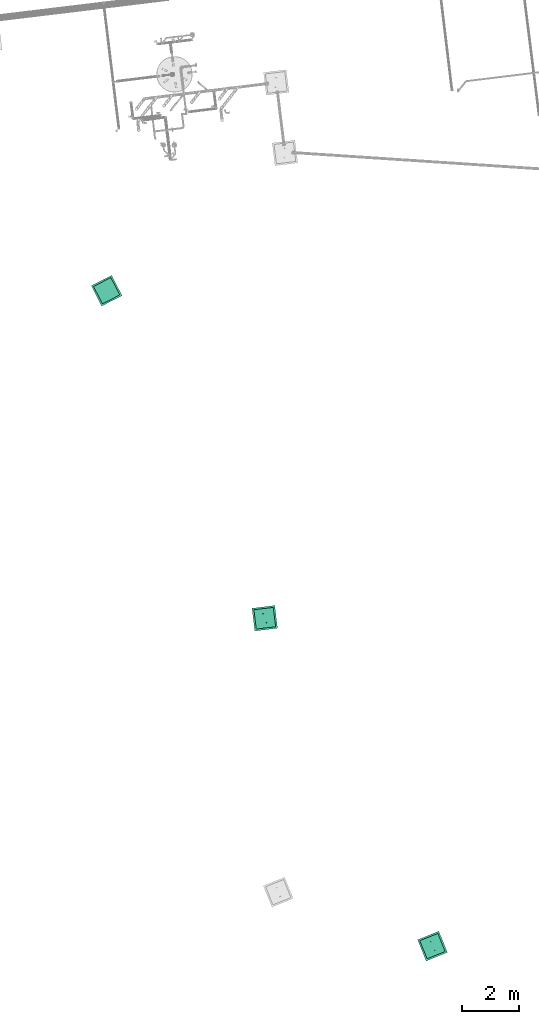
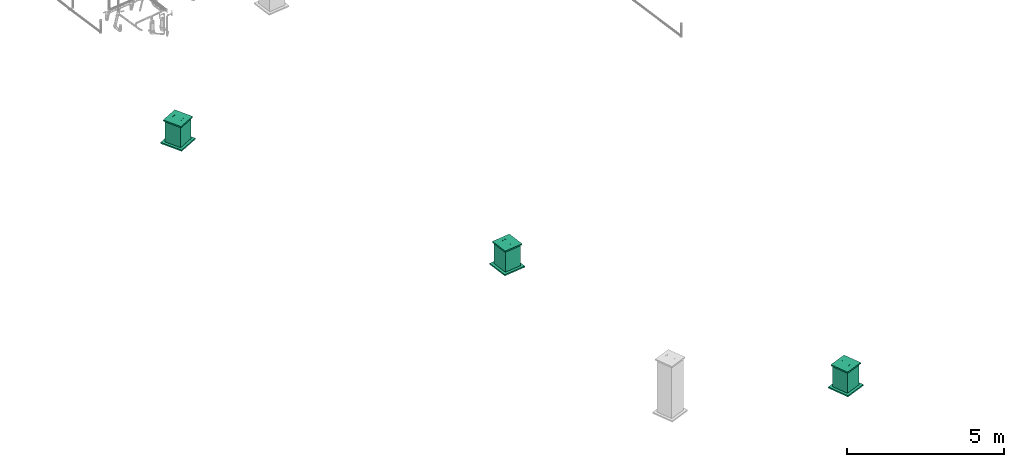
# One storey, part 2 of 97: 3 flow terminals.
"""IFC2X3 building model written with IfcOpenShell, lengths in centimetres."""

from ifc_helpers import new_model, entity, si_unit, converted_unit, derived_unit, direction, frame, origin, place, context, subcontext, project, spatial, faceted_brep, source, transform, mapped, material, material_list, type_object, type_shapes, element, save


model = new_model("IFC2X3")

# Units and contexts
model_context = context("Model", 3, precision=0.001, world=origin(), true_north=direction((6.12303176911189e-17, 1.0)))
body_context = subcontext(model_context, "Body", "Model", "MODEL_VIEW")
ifc_project = project(units=[si_unit("LENGTHUNIT", "METRE", prefix="CENTI"), si_unit("AREAUNIT", "SQUARE_METRE"), si_unit("VOLUMEUNIT", "CUBIC_METRE"), converted_unit("PLANEANGLEUNIT", "DEGREE", entity("IfcRatioMeasure", 0.0174532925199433), si_unit("PLANEANGLEUNIT", "RADIAN"), dimensions=[0, 0, 0, 0, 0, 0, 0]), si_unit("MASSUNIT", "GRAM", prefix="KILO"), derived_unit("MASSDENSITYUNIT", [(si_unit("MASSUNIT", "GRAM", prefix="KILO"), 1), (si_unit("LENGTHUNIT", "METRE"), -3)]), derived_unit("MOMENTOFINERTIAUNIT", [(si_unit("LENGTHUNIT", "METRE"), 4)]), si_unit("TIMEUNIT", "SECOND"), si_unit("FREQUENCYUNIT", "HERTZ"), si_unit("THERMODYNAMICTEMPERATUREUNIT", "DEGREE_CELSIUS"), derived_unit("THERMALTRANSMITTANCEUNIT", [(si_unit("MASSUNIT", "GRAM", prefix="KILO"), 1), (si_unit("THERMODYNAMICTEMPERATUREUNIT", "KELVIN"), -1), (si_unit("TIMEUNIT", "SECOND"), -3)]), derived_unit("VOLUMETRICFLOWRATEUNIT", [(si_unit("LENGTHUNIT", "METRE"), 3), (si_unit("TIMEUNIT", "SECOND"), -1)]), si_unit("ELECTRICCURRENTUNIT", "AMPERE"), si_unit("ELECTRICVOLTAGEUNIT", "VOLT"), si_unit("POWERUNIT", "WATT"), si_unit("FORCEUNIT", "NEWTON", prefix="KILO"), si_unit("ILLUMINANCEUNIT", "LUX"), si_unit("LUMINOUSFLUXUNIT", "LUMEN"), si_unit("LUMINOUSINTENSITYUNIT", "CANDELA"), derived_unit("USERDEFINED", [(si_unit("MASSUNIT", "GRAM", prefix="KILO"), -1), (si_unit("LENGTHUNIT", "METRE"), -2), (si_unit("TIMEUNIT", "SECOND"), 3), (si_unit("LUMINOUSFLUXUNIT", "LUMEN"), 1)]), derived_unit("LINEARVELOCITYUNIT", [(si_unit("LENGTHUNIT", "METRE"), 1), (si_unit("TIMEUNIT", "SECOND"), -1)]), si_unit("PRESSUREUNIT", "PASCAL"), derived_unit("USERDEFINED", [(si_unit("LENGTHUNIT", "METRE"), -2), (si_unit("MASSUNIT", "GRAM", prefix="KILO"), 1), (si_unit("TIMEUNIT", "SECOND"), -2)]), derived_unit("LINEARFORCEUNIT", [(si_unit("MASSUNIT", "GRAM", prefix="KILO"), 1), (si_unit("LENGTHUNIT", "METRE"), 1), (si_unit("TIMEUNIT", "SECOND"), -2), (si_unit("LENGTHUNIT", "METRE"), -1)]), derived_unit("PLANARFORCEUNIT", [(si_unit("MASSUNIT", "GRAM", prefix="KILO"), 1), (si_unit("LENGTHUNIT", "METRE"), 1), (si_unit("TIMEUNIT", "SECOND"), -2), (si_unit("LENGTHUNIT", "METRE"), -2)])], contexts=[model_context])

# Site, building, storey
site_placement = place(None, origin())
site = spatial("IfcSite", under=ifc_project, at=site_placement, Name="Default", CompositionType="ELEMENT")
building_placement = place(site_placement, origin())
building = spatial("IfcBuilding", under=site, at=building_placement, Name="HIDROSSANITÁRIO", CompositionType="ELEMENT")
storey_placement = place(building_placement, frame((0.0, 0.0, -260.0)))
storey = spatial("IfcBuildingStorey", under=building, at=storey_placement, Name="TÉRREO-HID", CompositionType="ELEMENT", Elevation=-260.0)

# Flow terminals
ifc_material_1 = material(Name="<Unnamed>")
ifc_material_2 = material(Name="Concrete, Sand/Cement Screed")
ifc_material_3 = material(Name="Brick, Common, Grey")
ifc_material_list_1 = material_list([ifc_material_1, ifc_material_2, ifc_material_3])
ifc_material_list_2 = material_list([ifc_material_1, ifc_material_2, ifc_material_3])
distribution_element_type = type_object("IfcDistributionElementType", Name="Caixa de Inspeção/Gordura:Alvenaria", material=ifc_material_list_2)
shared_shape = source(origin(), body_context, "Body", "Brep", [
    faceted_brep([(-5.60146522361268, 16.5924553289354, 3.71042168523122), (-5.40613785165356, 16.3971279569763, 3.71042168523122), (-5.60146522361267, 16.2018005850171, 3.71042168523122), (-5.79679259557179, 16.3971279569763, 3.71042168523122), (6.39853477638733, 16.2018005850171, 3.71042168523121), (6.20320740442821, 16.3971279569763, 3.71042168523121), (6.39853477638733, 16.5924553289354, 3.71042168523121), (6.59386214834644, 16.3971279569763, 3.71042168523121), (-5.40613785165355, 16.3971279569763, 5.27042602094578), (-5.57070403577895, 16.2042380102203, 5.71042174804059), (-5.79679259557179, 16.3971279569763, 5.27042593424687), (-5.40613785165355, 16.3971279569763, 7.71042168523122), (-5.60146522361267, 16.2018005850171, 7.71042168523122), (-5.40613785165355, 16.3971279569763, 6.1504173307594), (-5.79679259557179, 16.3971279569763, 7.71042168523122), (-5.60146522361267, 16.5924553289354, 7.71042168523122), (-5.63222641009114, 16.5900179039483, 5.71042169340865), (-5.68947233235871, 16.5044482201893, 7.71042168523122), (-5.25102598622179, 16.2195619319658, 8.35998244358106), (-5.37993713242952, 16.2298951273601, 8.48889359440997), (-4.60146522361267, 16.3971279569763, 8.90574905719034), (-4.60146522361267, 16.2018005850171, 8.71042168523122), (-5.17045469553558, 16.3971279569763, 8.27941115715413), (-4.60146522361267, 16.3971279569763, 8.5150943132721), (-5.44668931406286, 16.3971279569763, 8.55564577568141), (-5.36898819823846, 16.5727768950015, 8.47794465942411), (-5.21737432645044, 16.5627205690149, 8.36172681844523), (-4.60146522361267, 16.5924553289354, 8.71042168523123), (0.518543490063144, 16.3971279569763, 8.90574905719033), (1.73854147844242, 16.2018005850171, 8.71042168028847), (2.95853913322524, 16.3971279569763, 8.90574905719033), (-0.76461087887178, 16.2018577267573, 8.71514602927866), (-2.16146960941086, 16.3971279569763, 8.5150943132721), (0.278526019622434, 16.3971279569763, 8.5150943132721), (0.398534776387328, 16.3971279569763, 8.5150943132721), (-2.16146958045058, 16.3971279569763, 8.90574905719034), (5.39853477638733, 16.2018005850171, 8.71042168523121), (5.39853477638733, 16.3971279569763, 8.90574905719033), (2.95853916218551, 16.3971279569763, 8.5150943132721), (5.39853477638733, 16.3971279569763, 8.51509431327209), (0.398534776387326, 16.3971279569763, 8.90574905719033), (1.56168082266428, 16.5923981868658, 8.70569732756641), (-0.941471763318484, 16.5924553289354, 8.71042168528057), (5.39853477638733, 16.5924553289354, 8.71042168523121), (5.39853477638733, 16.5044482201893, 8.79842879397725), (6.04809553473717, 16.2195619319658, 8.35998244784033), (6.17700668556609, 16.2298951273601, 8.48889359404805), (6.59386214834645, 16.3971279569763, 7.71042168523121), (6.39853477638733, 16.2018005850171, 7.71042168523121), (5.96752424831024, 16.3971279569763, 8.27941115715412), (6.20320740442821, 16.3971279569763, 7.71042168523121), (6.24375886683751, 16.3971279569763, 8.5556457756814), (6.16605775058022, 16.5727768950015, 8.477944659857), (6.04983990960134, 16.5627205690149, 8.32633078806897), (6.39853477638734, 16.5924553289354, 7.71042168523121), (6.20320740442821, 16.3971279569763, 6.15041734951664), (6.36777358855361, 16.2042380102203, 5.71042162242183), (6.59386214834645, 16.3971279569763, 6.15041743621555), (6.20320740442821, 16.3971279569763, 5.27042603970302), (6.4292959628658, 16.5900179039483, 5.71042167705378)], [[[0, 1, 2, 3]], [[4, 5, 6, 7]], [[8, 9, 2]], [[2, 10, 3]], [[10, 2, 9]], [[11, 12, 9]], [[8, 2, 1]], [[9, 8, 13, 11]], [[9, 12, 14]], [[14, 10, 9]], [[13, 15, 11]], [[0, 10, 16]], [[14, 16, 10]], [[10, 0, 3]], [[16, 13, 8, 1]], [[13, 16, 15]], [[1, 0, 16]], [[16, 14, 17, 15]], [[12, 18, 19]], [[20, 19, 21]], [[14, 12, 19]], [[11, 22, 18]], [[23, 21, 18]], [[14, 19, 24]], [[24, 19, 20]], [[23, 18, 22]], [[19, 18, 21]], [[11, 18, 12]], [[17, 14, 24]], [[25, 26, 15]], [[25, 15, 17]], [[11, 15, 26]], [[25, 27, 26]], [[20, 25, 24]], [[20, 27, 25]], [[26, 22, 11]], [[22, 26, 23]], [[17, 24, 25]], [[23, 26, 27]], [[28, 29, 30]], [[31, 32, 33, 34]], [[35, 20, 21]], [[36, 37, 30]], [[29, 28, 31]], [[38, 39, 36]], [[21, 23, 32]], [[34, 29, 31]], [[32, 31, 21]], [[30, 29, 36]], [[34, 38, 29]], [[36, 29, 38]], [[31, 28, 40, 35]], [[31, 35, 21]], [[40, 41, 42]], [[43, 39, 38]], [[27, 42, 33, 32, 23]], [[27, 20, 35, 40, 42]], [[30, 37, 44, 43]], [[38, 41, 43]], [[30, 43, 41]], [[42, 41, 33]], [[41, 40, 28, 30]], [[41, 38, 34, 33]], [[36, 45, 46]], [[47, 46, 48]], [[37, 36, 46]], [[39, 49, 45]], [[50, 48, 45]], [[37, 46, 51]], [[51, 46, 47]], [[50, 45, 49]], [[46, 45, 48]], [[39, 45, 36]], [[44, 37, 51]], [[52, 53, 43]], [[52, 43, 44]], [[39, 43, 53]], [[52, 54, 53]], [[47, 52, 51]], [[47, 54, 52]], [[53, 49, 39]], [[49, 53, 50]], [[44, 51, 52]], [[50, 53, 54]], [[55, 56, 48]], [[48, 57, 47]], [[57, 48, 56]], [[5, 4, 56]], [[55, 48, 50]], [[56, 55, 58, 5]], [[56, 4, 7]], [[7, 57, 56]], [[58, 6, 5]], [[54, 57, 59]], [[7, 59, 57]], [[57, 54, 47]], [[59, 58, 55, 50]], [[58, 59, 6]], [[50, 54, 59]], [[7, 6, 59]]]),
    faceted_brep([(-5.60146522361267, -16.5924553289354, 3.71042168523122), (-5.79679259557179, -16.3971279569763, 3.71042168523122), (-5.60146522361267, -16.2018005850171, 3.71042168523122), (-5.40613785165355, -16.3971279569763, 3.71042168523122), (6.39853477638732, -16.2018005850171, 3.71042168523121), (6.59386214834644, -16.3971279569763, 3.71042168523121), (6.39853477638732, -16.5924553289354, 3.71042168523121), (6.20320740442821, -16.3971279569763, 3.71042168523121), (-5.79679259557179, -16.3971279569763, 6.15041737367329), (-5.60146522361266, -16.5924553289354, 7.71042168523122), (-5.68947233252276, -16.5044482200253, 7.71042168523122), (-5.79679259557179, -16.3971279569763, 7.71042168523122), (-5.40613785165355, -16.3971279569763, 5.27042602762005), (-5.5707040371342, -16.5900179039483, 5.71042169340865), (-5.40613785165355, -16.3971279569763, 7.71042168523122), (-5.79679259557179, -16.3971279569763, 5.27042602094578), (-5.51345811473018, -16.5044482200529, 7.71042168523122), (-5.63222641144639, -16.2042380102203, 5.71042174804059), (-5.60146522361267, -16.2018005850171, 7.71042168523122), (-5.37028554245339, -16.5521831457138, 8.52319636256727), (-5.44668931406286, -16.3971279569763, 8.55564577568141), (-5.17045469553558, -16.3971279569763, 8.27941115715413), (-4.60146522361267, -16.3971279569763, 8.5150943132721), (-4.60146522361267, -16.5044482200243, 8.62241457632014), (-4.60146522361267, -16.5924553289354, 8.71042168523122), (-4.60146522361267, -16.5044482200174, 8.79842879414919), (-5.27261908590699, -16.5857215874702, 8.3815755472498), (-4.60146522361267, -16.3971279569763, 8.90574905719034), (-5.23720687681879, -16.2298951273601, 8.34616333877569), (-4.60146522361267, -16.2018005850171, 8.71042168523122), (-5.36611802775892, -16.2195619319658, 8.4750744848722), (0.398534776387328, -16.3971279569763, 8.5150943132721), (1.56168082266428, -16.5923981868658, 8.71514604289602), (-0.941471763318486, -16.5924553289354, 8.71042168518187), (2.95853912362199, -16.3971279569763, 8.90574905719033), (5.39853477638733, -16.5924553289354, 8.71042168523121), (5.39853477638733, -16.5044482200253, 8.7984287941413), (5.39853477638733, -16.3971279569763, 8.90574905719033), (0.278526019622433, -16.3971279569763, 8.90574905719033), (-2.16146957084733, -16.3971279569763, 8.90574905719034), (-2.16146960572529, -16.3971279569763, 8.5150943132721), (2.95853915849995, -16.3971279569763, 8.51509431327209), (5.39853477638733, -16.3971279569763, 8.51509431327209), (5.39853477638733, -16.5044482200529, 8.62241457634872), (0.518543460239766, -16.3971279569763, 8.5150943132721), (0.398534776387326, -16.3971279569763, 8.90574905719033), (1.73854147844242, -16.2018005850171, 8.71042169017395), (-0.76461087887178, -16.2018577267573, 8.70569734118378), (5.39853477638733, -16.2018005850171, 8.71042168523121), (6.21130945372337, -16.5521831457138, 8.47924200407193), (6.24375886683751, -16.3971279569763, 8.5556457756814), (5.96752424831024, -16.3971279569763, 8.27941115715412), (6.20320740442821, -16.3971279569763, 7.71042168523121), (6.31052766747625, -16.5044482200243, 7.71042168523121), (6.39853477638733, -16.5924553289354, 7.71042168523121), (6.4865418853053, -16.5044482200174, 7.71042168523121), (6.06968863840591, -16.5857215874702, 8.38157554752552), (6.59386214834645, -16.3971279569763, 7.71042168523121), (6.03427642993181, -16.2298951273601, 8.34616333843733), (6.39853477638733, -16.2018005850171, 7.71042168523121), (6.16318757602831, -16.2195619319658, 8.47507448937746), (6.59386214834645, -16.3971279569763, 5.27042599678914), (6.20320740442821, -16.3971279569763, 6.15041726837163), (6.36777358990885, -16.5900179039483, 5.71042167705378), (6.59386214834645, -16.3971279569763, 6.15041734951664), (6.42929596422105, -16.2042380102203, 5.71042162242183)], [[[0, 1, 2, 3]], [[4, 5, 6, 7]], [[8, 9, 10, 11]], [[0, 12, 13]], [[14, 13, 12]], [[12, 0, 3]], [[13, 8, 15, 1]], [[8, 13, 9]], [[1, 0, 13]], [[13, 14, 16, 9]], [[15, 17, 2]], [[2, 12, 3]], [[12, 2, 17]], [[11, 18, 17]], [[15, 2, 1]], [[17, 15, 8, 11]], [[17, 18, 14]], [[14, 12, 17]], [[19, 10, 9]], [[10, 19, 20]], [[21, 22, 23]], [[24, 25, 19]], [[24, 26, 23]], [[24, 19, 26]], [[16, 26, 9]], [[20, 25, 27]], [[20, 11, 10]], [[23, 26, 21]], [[19, 25, 20]], [[14, 21, 16]], [[26, 19, 9]], [[26, 16, 21]], [[22, 28, 29]], [[18, 30, 28]], [[14, 28, 21]], [[14, 18, 28]], [[11, 20, 30]], [[27, 30, 20]], [[27, 29, 30]], [[11, 30, 18]], [[21, 28, 22]], [[28, 30, 29]], [[31, 32, 33]], [[34, 35, 36, 37]], [[24, 33, 38, 39, 27, 25]], [[40, 31, 33, 24, 23, 22]], [[41, 42, 43, 35]], [[34, 32, 35]], [[41, 35, 32]], [[33, 32, 38]], [[32, 31, 44, 41]], [[32, 34, 45, 38]], [[44, 46, 41]], [[47, 39, 38, 45]], [[40, 22, 29]], [[48, 42, 41]], [[46, 44, 47]], [[34, 37, 48]], [[29, 27, 39]], [[45, 46, 47]], [[39, 47, 29]], [[41, 46, 48]], [[45, 34, 46]], [[48, 46, 34]], [[47, 44, 31, 40]], [[47, 40, 29]], [[49, 36, 35]], [[36, 49, 50]], [[51, 52, 53]], [[54, 55, 49]], [[54, 56, 53]], [[54, 49, 56]], [[43, 56, 35]], [[50, 55, 57]], [[50, 37, 36]], [[53, 56, 51]], [[49, 55, 50]], [[42, 51, 43]], [[56, 49, 35]], [[56, 43, 51]], [[52, 58, 59]], [[48, 60, 58]], [[42, 58, 51]], [[42, 48, 58]], [[37, 50, 60]], [[57, 60, 50]], [[57, 59, 60]], [[37, 60, 48]], [[51, 58, 52]], [[58, 60, 59]], [[61, 6, 5]], [[54, 62, 63]], [[7, 63, 62]], [[62, 54, 53, 52]], [[63, 61, 64, 57]], [[61, 63, 6]], [[63, 57, 55, 54]], [[7, 6, 63]], [[64, 65, 59]], [[59, 62, 52]], [[62, 59, 65]], [[5, 4, 65]], [[64, 59, 57]], [[65, 64, 61, 5]], [[65, 4, 7]], [[7, 62, 65]]]),
    faceted_brep([(34.0, 34.0, 6.0), (-34.0, 34.0, 6.0), (-34.0, -34.0, 6.0), (34.0, -34.0, 6.0), (34.0, 34.0, 1.0), (34.0, -34.0, 1.0), (-34.0, -34.0, 1.0), (-34.0, 34.0, 1.0)], [[[0, 1, 2, 3]], [[4, 5, 6, 7]], [[1, 0, 4, 7]], [[2, 1, 7, 6]], [[3, 2, 6, 5]], [[0, 3, 5, 4]]]),
    faceted_brep([(40.0, 40.0, -80.0), (-40.0, 40.0, -80.0), (-40.0, -40.0, -80.0), (40.0, -40.0, -80.0), (40.0, 40.0, -85.0), (40.0, -40.0, -85.0), (-40.0, -40.0, -85.0), (-40.0, 40.0, -85.0)], [[[0, 1, 2, 3]], [[4, 5, 6, 7]], [[1, 0, 4, 7]], [[2, 1, 7, 6]], [[3, 2, 6, 5]], [[0, 3, 5, 4]]]),
    faceted_brep([(25.0, 25.0, 1.0), (25.0, -25.0, 1.0), (-25.0, -25.0, 1.0), (-25.0, 25.0, 1.0), (30.0, 30.0, 1.0), (-30.0, 30.0, 1.0), (-30.0, -30.0, 1.0), (30.0, -30.0, 1.0), (25.0, 25.0, -80.0), (-25.0, 25.0, -80.0), (-25.0, -25.0, -80.0), (25.0, -25.0, -80.0), (30.0, 30.0, -80.0), (30.0, -30.0, -80.0), (-30.0, -30.0, -80.0), (-30.0, 30.0, -80.0)], [[[0, 1, 2, 3], [4, 5, 6, 7]], [[8, 9, 10, 11], [12, 13, 14, 15]], [[1, 0, 8, 11]], [[2, 1, 11, 10]], [[3, 2, 10, 9]], [[0, 3, 9, 8]], [[5, 4, 12, 15]], [[6, 5, 15, 14]], [[7, 6, 14, 13]], [[4, 7, 13, 12]]], outer=[[False, True], [False, True], [True], [True], [True], [True], [True], [True], [True], [True]]),
])
type_shapes(distribution_element_type, [shared_shape])
flow_terminal_1_placement = place(storey_placement, frame((-754.685774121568, -4.45854200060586, 34.0), z_axis=(0.0, 0.0, 1.0), x_axis=(0.927348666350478, 0.374198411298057, 0.0)))
element("IfcFlowTerminal", 1, at=flow_terminal_1_placement, inside=storey, type_object=distribution_element_type, material=ifc_material_list_1, Name="Caixa de Inspeção/Gordura:Alvenaria", ObjectType="Caixa de Inspeção/Gordura:Alvenaria", context=body_context, shape_type="MappedRepresentation", body=[
    mapped(shared_shape, transform((0.0, 0.0, 0.0), scale=1.0)),
])
ifc_material_list_3 = material_list([ifc_material_1, ifc_material_2, ifc_material_3])
flow_terminal_2_placement = place(storey_placement, frame((-1340.25513274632, 1140.31847695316, 16.0), z_axis=(0.0, 0.0, 1.0), x_axis=(0.992511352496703, 0.122152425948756, 0.0)))
element("IfcFlowTerminal", 2, at=flow_terminal_2_placement, inside=storey, type_object=distribution_element_type, material=ifc_material_list_3, Name="Caixa de Inspeção/Gordura:Alvenaria", ObjectType="Caixa de Inspeção/Gordura:Alvenaria", context=body_context, shape_type="MappedRepresentation", body=[
    mapped(shared_shape, transform((0.0, 0.0, 0.0), scale=1.0)),
])
ifc_material_list_4 = material_list([ifc_material_1, ifc_material_2, ifc_material_3])
flow_terminal_3_placement = place(storey_placement, frame((-1892.39852348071, 2283.99097903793, 0.0), z_axis=(0.0, 0.0, 1.0), x_axis=(0.890997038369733, 0.454009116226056, 0.0)))
element("IfcFlowTerminal", 3, at=flow_terminal_3_placement, inside=storey, type_object=distribution_element_type, material=ifc_material_list_4, Name="Caixa de Inspeção/Gordura:Alvenaria", ObjectType="Caixa de Inspeção/Gordura:Alvenaria", context=body_context, shape_type="MappedRepresentation", body=[
    mapped(shared_shape, transform((0.0, 0.0, 0.0), scale=1.0)),
])

save(model, "model.ifc")
